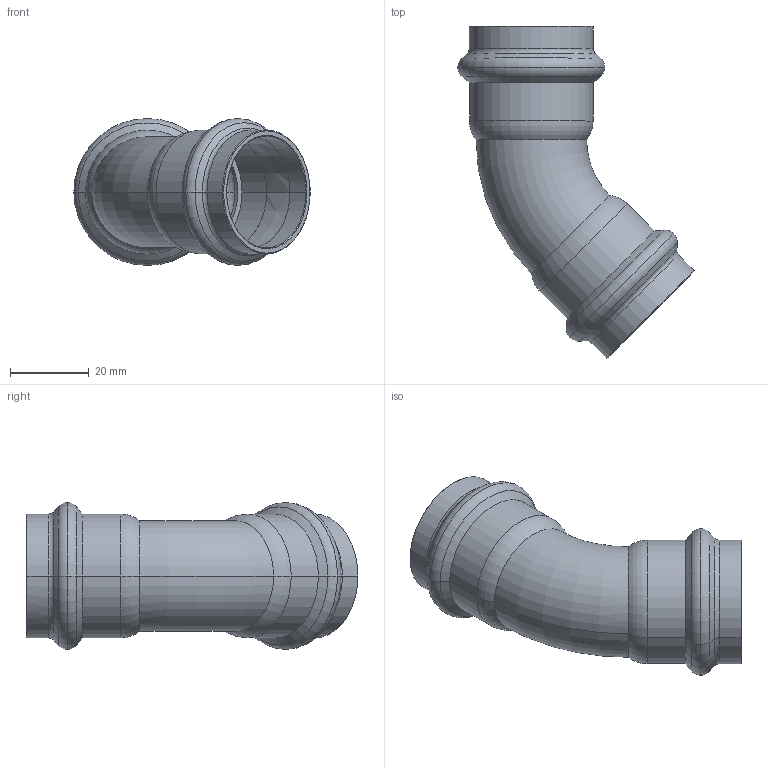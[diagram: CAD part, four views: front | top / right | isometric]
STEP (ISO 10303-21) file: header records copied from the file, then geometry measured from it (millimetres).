
FILE_DESCRIPTION(('CoCreate Modeling STEP Export'),'2;1');
FILE_NAME('8041VW28.stp','2013-01-29T14:30:32',(''),(''),'CoCreate Modeling STEP processor for AP214 (Solid Model)','CoCreate Modeling 17.00A 17-Jun-2010 (C) Parametric Technology GmbH','');
FILE_SCHEMA(('AUTOMOTIVE_DESIGN { 1 0 10303 214 1 1 1 1 }'));
Length unit declared in the file: millimetre
Products named in the file (1): 8041VW28
Bounding box: 59.84 x 84.07 x 37.2 mm (x, y, z)
Volume: 14935.4 mm3; surface area: 16680.9 mm2
Topology: 1 solids, 1 shells, 78 faces, 178 edges, 106 vertices
Faces by surface type: torus 32, cylinder 20, cone 20, plane 6
Entity records: 2354 total; most frequent: CARTESIAN_POINT 855, ORIENTED_EDGE 356, DIRECTION 272, EDGE_CURVE 178, AXIS2_PLACEMENT_3D 116, VERTEX_POINT 106, EDGE_LOOP 84, FACE_OUTER_BOUND 78
